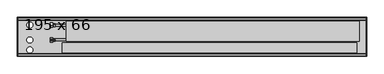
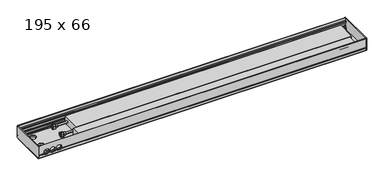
"""IFC4 building model written with IfcOpenShell, lengths in millimetres: proxy geometry, Mohlenhof_Внутрипольный конвектор_QSKM : 195 x 66."""

from ifc_helpers import new_model, si_unit, point, frame, frame_2d, origin, place, context, project, spatial, polyline, circle_curve, ellipse_curve, trimmed, segment, composite_curve, outline, extrude, source, transform, mapped, element, save
from ifc_brep_helpers import plane_surface, cylinder_surface, revolved_surface, advanced_brep


def proxy_195_x_66_bf0ae810(model_context):
    return source(origin(), model_context, "Body", "SolidModel", [
        extrude(outline(composite_curve([segment(trimmed(circle_curve(frame_2d((0.0, -273.5)), 4.5), [point((-4.5, -273.5))], [point((4.5, -273.5))], False, "CARTESIAN"), True, "CONTINUOUS"), segment(trimmed(circle_curve(frame_2d((0.0, -273.5)), 4.5), [point((4.5, -273.5))], [point((-4.5, -273.5))], False, "CARTESIAN"), True, "CONTINUOUS")], self_intersect=False)), frame((0.0, 0.0, -79.0), z_axis=(0.0, 0.0, 1.0), x_axis=(1.0, 0.0, 0.0)), (0.0, 0.0, 1.0), 7.0),
        extrude(outline(composite_curve([segment(trimmed(circle_curve(frame_2d((0.0, -273.5)), 4.0), [point((-4.0, -273.5))], [point((4.0, -273.5))], False, "CARTESIAN"), True, "CONTINUOUS"), segment(trimmed(circle_curve(frame_2d((0.0, -273.5)), 4.0), [point((4.0, -273.5))], [point((-4.0, -273.5))], False, "CARTESIAN"), True, "CONTINUOUS")], self_intersect=False)), frame((0.0, 0.0, -72.0), z_axis=(0.0, 0.0, 1.0), x_axis=(1.0, 0.0, 0.0)), (0.0, 0.0, 1.0), 1.5),
        extrude(outline(composite_curve([segment(trimmed(circle_curve(frame_2d((0.0, -121.5)), 4.5), [point((-4.5, -121.5))], [point((4.5, -121.5))], False, "CARTESIAN"), True, "CONTINUOUS"), segment(trimmed(circle_curve(frame_2d((0.0, -121.5)), 4.5), [point((4.5, -121.5))], [point((-4.5, -121.5))], False, "CARTESIAN"), True, "CONTINUOUS")], self_intersect=False)), frame((0.0, 0.0, -79.0), z_axis=(0.0, 0.0, 1.0), x_axis=(1.0, 0.0, 0.0)), (0.0, 0.0, 1.0), 7.0),
        extrude(outline(composite_curve([segment(trimmed(circle_curve(frame_2d((0.0, -121.5)), 4.0), [point((-4.0, -121.5))], [point((4.0, -121.5))], False, "CARTESIAN"), True, "CONTINUOUS"), segment(trimmed(circle_curve(frame_2d((0.0, -121.5)), 4.0), [point((4.0, -121.5))], [point((-4.0, -121.5))], False, "CARTESIAN"), True, "CONTINUOUS")], self_intersect=False)), frame((0.0, 0.0, -72.0), z_axis=(0.0, 0.0, 1.0), x_axis=(1.0, 0.0, 0.0)), (0.0, 0.0, 1.0), 1.5),
        advanced_brep(
        [(-699.0, -213.0, -41.0), (-699.0, -201.0, -41.0), (-699.0, -225.0, -41.0), (-686.5, -220.5, -41.0), (-686.5, -205.5, -41.0), (-686.5, -213.0, -41.0), (-694.0, -220.5, -41.0), (-694.0, -205.5, -41.0)],
        [
            (0, 1),
            (1, 2, circle_curve(frame((-699.0, -213.0, -41.0), z_axis=(-1.0, 0.0, 0.0), x_axis=(0.0, 1.0, 0.0)), 12.0)),
            (2, 0),
            (2, 1, circle_curve(frame((-699.0, -213.0, -41.0), z_axis=(-1.0, 0.0, 0.0), x_axis=(0.0, 1.0, 0.0)), 12.0)),
            (3, 4, circle_curve(frame((-686.5, -213.0, -41.0), z_axis=(1.0, 0.0, 0.0), x_axis=(0.0, 1.0, 0.0)), 7.5)),
            (4, 5),
            (5, 3),
            (4, 3, circle_curve(frame((-686.5, -213.0, -41.0), z_axis=(1.0, 0.0, 0.0), x_axis=(0.0, 1.0, 0.0)), 7.5)),
            (6, 7, circle_curve(frame((-694.0, -213.0, -41.0), z_axis=(1.0, 0.0, 0.0), x_axis=(0.0, 1.0, 0.0)), 7.5)),
            (7, 4),
            (3, 6),
            (7, 6, circle_curve(frame((-694.0, -213.0, -41.0), z_axis=(1.0, 0.0, 0.0), x_axis=(0.0, 1.0, 0.0)), 7.5)),
            (1, 7),
            (6, 2),
        ],
        [
            plane_surface(frame((-699.0, -213.0, -41.0), z_axis=(-1.0, 0.0, 0.0), x_axis=(0.0, 1.0, 0.0))),
            plane_surface(frame((-686.5, -213.0, -41.0), z_axis=(1.0, 0.0, 0.0), x_axis=(0.0, 1.0, 0.0))),
            cylinder_surface(frame((-699.0, -213.0, -41.0), z_axis=(-1.0, 0.0, 0.0), x_axis=(0.0, 1.0, 0.0)), 7.5),
            revolved_surface(polyline([(-694.0, -205.5, -41.0), (-699.0, -201.0, -41.0)]), (-699.0, -213.0, -41.0), (-1.0, 0.0, 0.0)),
        ],
        [
            (0, [[1, 2, 3]]),
            (0, [[-3, 4, -1]]),
            (1, [[5, 6, 7]]),
            (1, [[8, -7, -6]]),
            (2, [[9, 10, -5, 11]]),
            (2, [[12, -11, -8, -10]]),
            (3, [[-2, 13, -9, 14]]),
            (3, [[-4, -14, -12, -13]]),
        ],
    ),
        extrude(outline(polyline([(-213.0, -27.1435935), (-201.0, -34.0717968), (-201.0, -47.9282032), (-213.0, -54.8564065), (-225.0, -47.9282032), (-225.0, -34.0717968), (-213.0, -27.1435935)]), holes=[composite_curve([segment(trimmed(circle_curve(frame_2d((-213.0, -41.0)), 8.5), [point((-204.5, -41.0))], [point((-221.5, -41.0))], True, "CARTESIAN"), True, "CONTINUOUS"), segment(trimmed(circle_curve(frame_2d((-213.0, -41.0)), 8.5), [point((-221.5, -41.0))], [point((-204.5, -41.0))], True, "CARTESIAN"), True, "CONTINUOUS")], self_intersect=False)]), frame((-710.0, 0.0, 0.0), z_axis=(1.0, 0.0, 0.0), x_axis=(0.0, 1.0, 0.0)), (0.0, 0.0, 1.0), 11.0),
        advanced_brep(
        [(-699.0, -138.0, -41.0), (-699.0, -126.0, -41.0), (-699.0, -150.0, -41.0), (-686.5, -145.5, -41.0), (-686.5, -130.5, -41.0), (-686.5, -138.0, -41.0), (-694.0, -145.5, -41.0), (-694.0, -130.5, -41.0)],
        [
            (0, 1),
            (1, 2, circle_curve(frame((-699.0, -138.0, -41.0), z_axis=(-1.0, 0.0, 0.0), x_axis=(0.0, 1.0, 0.0)), 12.0)),
            (2, 0),
            (2, 1, circle_curve(frame((-699.0, -138.0, -41.0), z_axis=(-1.0, 0.0, 0.0), x_axis=(0.0, 1.0, 0.0)), 12.0)),
            (3, 4, circle_curve(frame((-686.5, -138.0, -41.0), z_axis=(1.0, 0.0, 0.0), x_axis=(0.0, 1.0, 0.0)), 7.5)),
            (4, 5),
            (5, 3),
            (4, 3, circle_curve(frame((-686.5, -138.0, -41.0), z_axis=(1.0, 0.0, 0.0), x_axis=(0.0, 1.0, 0.0)), 7.5)),
            (6, 7, circle_curve(frame((-694.0, -138.0, -41.0), z_axis=(1.0, 0.0, 0.0), x_axis=(0.0, 1.0, 0.0)), 7.5)),
            (7, 4),
            (3, 6),
            (7, 6, circle_curve(frame((-694.0, -138.0, -41.0), z_axis=(1.0, 0.0, 0.0), x_axis=(0.0, 1.0, 0.0)), 7.5)),
            (1, 7),
            (6, 2),
        ],
        [
            plane_surface(frame((-699.0, -138.0, -41.0), z_axis=(-1.0, 0.0, 0.0), x_axis=(0.0, 1.0, 0.0))),
            plane_surface(frame((-686.5, -138.0, -41.0), z_axis=(1.0, 0.0, 0.0), x_axis=(0.0, 1.0, 0.0))),
            cylinder_surface(frame((-699.0, -138.0, -41.0), z_axis=(-1.0, 0.0, 0.0), x_axis=(0.0, 1.0, 0.0)), 7.5),
            revolved_surface(polyline([(-694.0, -130.5, -41.0), (-699.0, -126.0, -41.0)]), (-699.0, -138.0, -41.0), (-1.0, 0.0, 0.0)),
        ],
        [
            (0, [[1, 2, 3]]),
            (0, [[-3, 4, -1]]),
            (1, [[5, 6, 7]]),
            (1, [[8, -7, -6]]),
            (2, [[9, 10, -5, 11]]),
            (2, [[12, -11, -8, -10]]),
            (3, [[-2, 13, -9, 14]]),
            (3, [[-4, -14, -12, -13]]),
        ],
    ),
        extrude(outline(polyline([(-138.0, -27.1435935), (-126.0, -34.0717968), (-126.0, -47.9282032), (-138.0, -54.8564065), (-150.0, -47.9282032), (-150.0, -34.0717968), (-138.0, -27.1435935)]), holes=[composite_curve([segment(trimmed(circle_curve(frame_2d((-138.0, -41.0)), 8.5), [point((-129.5, -41.0))], [point((-146.5, -41.0))], True, "CARTESIAN"), True, "CONTINUOUS"), segment(trimmed(circle_curve(frame_2d((-138.0, -41.0)), 8.5), [point((-146.5, -41.0))], [point((-129.5, -41.0))], True, "CARTESIAN"), True, "CONTINUOUS")], self_intersect=False)]), frame((-710.0, 0.0, 0.0), z_axis=(1.0, 0.0, 0.0), x_axis=(0.0, 1.0, 0.0)), (0.0, 0.0, 1.0), 11.0),
        extrude(outline(composite_curve([segment(trimmed(circle_curve(frame_2d((-850.0, -273.5)), 4.5), [point((-854.5, -273.5))], [point((-845.5, -273.5))], False, "CARTESIAN"), True, "CONTINUOUS"), segment(trimmed(circle_curve(frame_2d((-850.0, -273.5)), 4.5), [point((-845.5, -273.5))], [point((-854.5, -273.5))], False, "CARTESIAN"), True, "CONTINUOUS")], self_intersect=False)), frame((0.0, 0.0, -79.0), z_axis=(0.0, 0.0, 1.0), x_axis=(1.0, 0.0, 0.0)), (0.0, 0.0, 1.0), 7.0),
        extrude(outline(composite_curve([segment(trimmed(circle_curve(frame_2d((-850.0, -273.5)), 4.0), [point((-854.0, -273.5))], [point((-846.0, -273.5))], False, "CARTESIAN"), True, "CONTINUOUS"), segment(trimmed(circle_curve(frame_2d((-850.0, -273.5)), 4.0), [point((-846.0, -273.5))], [point((-854.0, -273.5))], False, "CARTESIAN"), True, "CONTINUOUS")], self_intersect=False)), frame((0.0, 0.0, -72.0), z_axis=(0.0, 0.0, 1.0), x_axis=(1.0, 0.0, 0.0)), (0.0, 0.0, 1.0), 1.5),
        extrude(outline(composite_curve([segment(trimmed(circle_curve(frame_2d((-850.0, -121.5)), 4.5), [point((-854.5, -121.5))], [point((-845.5, -121.5))], False, "CARTESIAN"), True, "CONTINUOUS"), segment(trimmed(circle_curve(frame_2d((-850.0, -121.5)), 4.5), [point((-845.5, -121.5))], [point((-854.5, -121.5))], False, "CARTESIAN"), True, "CONTINUOUS")], self_intersect=False)), frame((0.0, 0.0, -79.0), z_axis=(0.0, 0.0, 1.0), x_axis=(1.0, 0.0, 0.0)), (0.0, 0.0, 1.0), 7.0),
        extrude(outline(composite_curve([segment(trimmed(circle_curve(frame_2d((-850.0, -121.5)), 4.0), [point((-854.0, -121.5))], [point((-846.0, -121.5))], False, "CARTESIAN"), True, "CONTINUOUS"), segment(trimmed(circle_curve(frame_2d((-850.0, -121.5)), 4.0), [point((-846.0, -121.5))], [point((-854.0, -121.5))], False, "CARTESIAN"), True, "CONTINUOUS")], self_intersect=False)), frame((0.0, 0.0, -72.0), z_axis=(0.0, 0.0, 1.0), x_axis=(1.0, 0.0, 0.0)), (0.0, 0.0, 1.0), 1.5),
        extrude(outline(composite_curve([segment(trimmed(circle_curve(frame_2d((850.0, -273.5)), 4.5), [point((845.5, -273.5))], [point((854.5, -273.5))], False, "CARTESIAN"), True, "CONTINUOUS"), segment(trimmed(circle_curve(frame_2d((850.0, -273.5)), 4.5), [point((854.5, -273.5))], [point((845.5, -273.5))], False, "CARTESIAN"), True, "CONTINUOUS")], self_intersect=False)), frame((0.0, 0.0, -79.0), z_axis=(0.0, 0.0, 1.0), x_axis=(1.0, 0.0, 0.0)), (0.0, 0.0, 1.0), 7.0),
        extrude(outline(composite_curve([segment(trimmed(circle_curve(frame_2d((850.0, -273.5)), 4.0), [point((846.0, -273.5))], [point((854.0, -273.5))], False, "CARTESIAN"), True, "CONTINUOUS"), segment(trimmed(circle_curve(frame_2d((850.0, -273.5)), 4.0), [point((854.0, -273.5))], [point((846.0, -273.5))], False, "CARTESIAN"), True, "CONTINUOUS")], self_intersect=False)), frame((0.0, 0.0, -72.0), z_axis=(0.0, 0.0, 1.0), x_axis=(1.0, 0.0, 0.0)), (0.0, 0.0, 1.0), 1.5),
        extrude(outline(composite_curve([segment(trimmed(circle_curve(frame_2d((850.0, -121.5)), 4.5), [point((845.5, -121.5))], [point((854.5, -121.5))], False, "CARTESIAN"), True, "CONTINUOUS"), segment(trimmed(circle_curve(frame_2d((850.0, -121.5)), 4.5), [point((854.5, -121.5))], [point((845.5, -121.5))], False, "CARTESIAN"), True, "CONTINUOUS")], self_intersect=False)), frame((0.0, 0.0, -79.0), z_axis=(0.0, 0.0, 1.0), x_axis=(1.0, 0.0, 0.0)), (0.0, 0.0, 1.0), 7.0),
        extrude(outline(composite_curve([segment(trimmed(circle_curve(frame_2d((850.0, -121.5)), 4.0), [point((846.0, -121.5))], [point((854.0, -121.5))], False, "CARTESIAN"), True, "CONTINUOUS"), segment(trimmed(circle_curve(frame_2d((850.0, -121.5)), 4.0), [point((854.0, -121.5))], [point((846.0, -121.5))], False, "CARTESIAN"), True, "CONTINUOUS")], self_intersect=False)), frame((0.0, 0.0, -72.0), z_axis=(0.0, 0.0, 1.0), x_axis=(1.0, 0.0, 0.0)), (0.0, 0.0, 1.0), 1.5),
        extrude(outline(polyline([(825.0, -225.87), (825.0, -277.18), (-650.0, -277.18), (-650.0, -225.87), (825.0, -225.87)])), frame((0.0, 0.0, -62.5), z_axis=(0.0, 0.0, 1.0), x_axis=(1.0, 0.0, 0.0)), (0.0, 0.0, 1.0), 43.62),
        extrude(outline(composite_curve([segment(trimmed(circle_curve(frame_2d((-213.0, -41.0)), 5.0), [point((-218.0, -41.0))], [point((-208.0, -41.0))], False, "CARTESIAN"), True, "CONTINUOUS"), segment(trimmed(circle_curve(frame_2d((-213.0, -41.0)), 5.0), [point((-208.0, -41.0))], [point((-218.0, -41.0))], False, "CARTESIAN"), True, "CONTINUOUS")], self_intersect=False)), frame((-710.0, 0.0, 0.0), z_axis=(1.0, 0.0, 0.0), x_axis=(0.0, 1.0, 0.0)), (0.0, 0.0, 1.0), 80.0),
        extrude(outline(composite_curve([segment(trimmed(circle_curve(frame_2d((-138.0, -41.0)), 5.0), [point((-143.0, -41.0))], [point((-133.0, -41.0))], False, "CARTESIAN"), True, "CONTINUOUS"), segment(trimmed(circle_curve(frame_2d((-138.0, -41.0)), 5.0), [point((-133.0, -41.0))], [point((-143.0, -41.0))], False, "CARTESIAN"), True, "CONTINUOUS")], self_intersect=False)), frame((-710.0, 0.0, 0.0), z_axis=(1.0, 0.0, 0.0), x_axis=(0.0, 1.0, 0.0)), (0.0, 0.0, 1.0), 80.0),
        advanced_brep(
        [(873.0, -295.0, -48.5473602), (873.0, -293.5, -49.2468216), (873.0, -292.5, -49.2468216), (873.0, -292.5, -46.0008038), (873.0, -290.0, -46.0008038), (873.0, -290.0, -56.5008038), (873.0, -292.5, -56.5008038), (873.0, -292.5, -53.2468216), (873.0, -293.5, -53.2468216), (873.0, -295.0, -53.9462831), (873.0, -295.0, -66.5), (873.0, -291.0, -66.5), (873.0, -291.0, -65.2), (873.0, -293.0, -65.2), (873.0, -293.0, -62.5), (873.0, -282.0, -62.5), (873.0, -282.0, -54.9172677), (873.0, -283.4172677, -53.5), (873.0, -287.0, -53.5), (873.0, -287.0, -45.91), (873.0, -289.0, -43.91), (873.0, -289.0, -39.5), (873.0, -290.0, -39.5), (873.0, -290.0, -43.5), (873.0, -292.4956439, -43.5), (873.0, -292.4956439, -23.0), (873.0, -290.0, -23.0), (873.0, -290.0, -27.0), (873.0, -289.0, -27.0), (873.0, -289.0, -17.0), (873.0, -283.3956439, -17.0), (873.0, -283.3956439, -15.0), (873.0, -293.4, -15.0), (873.0, -293.4, 0.0), (873.0, -295.0, 0.0), (-873.0, -295.0, -48.5473602), (-873.0, -295.0, 0.0), (-873.0, -293.4, 0.0), (-873.0, -293.4, -15.0), (-873.0, -283.3956439, -15.0), (-873.0, -283.3956439, -17.0), (-873.0, -289.0, -17.0), (-873.0, -289.0, -27.0), (-873.0, -290.0, -27.0), (-873.0, -290.0, -23.0), (-873.0, -292.4956439, -23.0), (-873.0, -292.4956439, -43.5), (-873.0, -290.0, -43.5), (-873.0, -290.0, -39.5), (-873.0, -289.0, -39.5), (-873.0, -289.0, -43.91), (-873.0, -287.0, -45.91), (-873.0, -287.0, -53.5), (-873.0, -283.4172677, -53.5), (-873.0, -282.0, -54.9172677), (-873.0, -282.0, -62.5), (-873.0, -293.0, -62.5), (-873.0, -293.0, -65.2), (-873.0, -291.0, -65.2), (-873.0, -291.0, -66.5), (-873.0, -295.0, -66.5), (-873.0, -295.0, -53.9462831), (-873.0, -293.5, -53.2468216), (-873.0, -292.5, -53.2468216), (-873.0, -292.5, -56.5008038), (-873.0, -290.0, -56.5008038), (-873.0, -290.0, -46.0008038), (-873.0, -292.5, -46.0008038), (-873.0, -292.5, -49.2468216), (-873.0, -293.5, -49.2468216), (-753.7585985, -295.0, -48.5473602), (-754.155283, -293.5, -49.2468216), (-845.844717, -293.5, -49.2468216), (-846.2414015, -295.0, -48.5473602), (-813.2414015, -295.0, -48.5473602), (-819.7585985, -295.0, -48.5473602), (-820.155283, -293.5, -49.2468216), (-812.844717, -293.5, -49.2468216), (-780.2414015, -295.0, -48.5473602), (-786.7585985, -295.0, -48.5473602), (-787.155283, -293.5, -49.2468216), (-779.844717, -293.5, -49.2468216), (-754.155283, -292.5, -49.2468216), (-845.844717, -292.5, -49.2468216), (-820.155283, -292.5, -49.2468216), (-812.844717, -292.5, -49.2468216), (-787.155283, -292.5, -49.2468216), (-779.844717, -292.5, -49.2468216), (-752.6911648, -292.5, -46.0008038), (-847.3088352, -292.5, -46.0008038), (-818.6911648, -292.5, -46.0008038), (-814.3088352, -292.5, -46.0008038), (-785.6911648, -292.5, -46.0008038), (-781.3088352, -292.5, -46.0008038), (-752.6911648, -290.0, -46.0008038), (-847.3088352, -290.0, -46.0008038), (-818.6911648, -290.0, -46.0008038), (-814.3088352, -290.0, -46.0008038), (-785.6911648, -290.0, -46.0008038), (-781.3088352, -290.0, -46.0008038), (-842.328032, -292.5, -53.2468216), (-823.671968, -292.5, -53.2468216), (-809.328032, -292.5, -53.2468216), (-790.671968, -292.5, -53.2468216), (-776.328032, -292.5, -53.2468216), (-757.671968, -292.5, -53.2468216), (-757.671968, -293.5, -53.2468216), (-842.328032, -293.5, -53.2468216), (-823.671968, -293.5, -53.2468216), (-809.328032, -293.5, -53.2468216), (-790.671968, -293.5, -53.2468216), (-776.328032, -293.5, -53.2468216), (-758.6280208, -295.0, -53.9462831), (-841.3719792, -295.0, -53.9462831), (-824.6280208, -295.0, -53.9462831), (-808.3719792, -295.0, -53.9462831), (-791.6280208, -295.0, -53.9462831), (-775.3719792, -295.0, -53.9462831), (-839.7064841, -282.0, -54.9172677), (-826.2935159, -282.0, -54.9172677), (-806.7064841, -282.0, -54.9172677), (-793.2935159, -282.0, -54.9172677), (-773.7064841, -282.0, -54.9172677), (-760.2935159, -282.0, -54.9172677), (-758.0, -283.4172677, -53.5), (-842.0, -283.4172677, -53.5), (-824.0, -283.4172677, -53.5), (-809.0, -283.4172677, -53.5), (-791.0, -283.4172677, -53.5), (-776.0, -283.4172677, -53.5), (-758.0, -287.0, -53.5), (-842.0, -287.0, -53.5), (-824.0, -287.0, -53.5), (-809.0, -287.0, -53.5), (-791.0, -287.0, -53.5), (-776.0, -287.0, -53.5), (-752.6629187, -287.0, -45.91), (-847.3370813, -287.0, -45.91), (-818.6629187, -287.0, -45.91), (-814.3370813, -287.0, -45.91), (-785.6629187, -287.0, -45.91), (-781.3370813, -287.0, -45.91), (-752.1948691, -289.0, -43.91), (-847.8051309, -289.0, -43.91), (-818.1948691, -289.0, -43.91), (-814.8051309, -289.0, -43.91), (-785.1948691, -289.0, -43.91), (-781.8051309, -289.0, -43.91), (-752.0, -289.0, -41.5), (-752.1339313, -289.0, -39.5), (-847.8660687, -289.0, -39.5), (-848.0, -289.0, -41.5), (-818.0, -289.0, -41.5), (-818.1339313, -289.0, -39.5), (-814.8660687, -289.0, -39.5), (-815.0, -289.0, -41.5), (-785.0, -289.0, -41.5), (-785.1339313, -289.0, -39.5), (-781.8660687, -289.0, -39.5), (-782.0, -289.0, -41.5), (-752.1339313, -290.0, -39.5), (-847.8660687, -290.0, -39.5), (-818.1339313, -290.0, -39.5), (-814.8660687, -290.0, -39.5), (-785.1339313, -290.0, -39.5), (-781.8660687, -290.0, -39.5), (-752.0, -290.0, -41.5), (-752.1339313, -290.0, -43.5), (-847.8660687, -290.0, -43.5), (-848.0, -290.0, -41.5), (-818.0, -290.0, -41.5), (-818.1339313, -290.0, -43.5), (-814.8660687, -290.0, -43.5), (-815.0, -290.0, -41.5), (-785.0, -290.0, -41.5), (-785.1339313, -290.0, -43.5), (-781.8660687, -290.0, -43.5), (-782.0, -290.0, -41.5), (-752.1339313, -292.4956439, -43.5), (-847.8660687, -292.4956439, -43.5), (-818.1339313, -292.4956439, -43.5), (-814.8660687, -292.4956439, -43.5), (-785.1339313, -292.4956439, -43.5), (-781.8660687, -292.4956439, -43.5), (-752.0, -292.4956439, -41.5), (-782.0, -292.4956439, -41.5), (-785.0, -292.4956439, -41.5), (-815.0, -292.4956439, -41.5), (-818.0, -292.4956439, -41.5), (-848.0, -292.4956439, -41.5), (-836.8405729, -290.0, -27.0), (-829.1594271, -290.0, -27.0), (-803.8405729, -290.0, -27.0), (-796.1594271, -290.0, -27.0), (-770.8405729, -290.0, -27.0), (-763.1594271, -290.0, -27.0), (-763.1594271, -289.0, -27.0), (-836.8405729, -289.0, -27.0), (-829.1594271, -289.0, -27.0), (-803.8405729, -289.0, -27.0), (-796.1594271, -289.0, -27.0), (-770.8405729, -289.0, -27.0), (-848.0, -295.0, -41.5), (-818.0, -295.0, -41.5), (-815.0, -295.0, -41.5), (-785.0, -295.0, -41.5), (-782.0, -295.0, -41.5), (-752.0, -295.0, -41.5)],
        [
            (0, 1),
            (1, 2),
            (2, 3),
            (3, 4),
            (4, 5),
            (5, 6),
            (6, 7),
            (7, 8),
            (8, 9),
            (9, 10),
            (10, 11),
            (11, 12),
            (12, 13),
            (13, 14),
            (14, 15),
            (15, 16),
            (16, 17),
            (17, 18),
            (18, 19),
            (19, 20),
            (20, 21),
            (21, 22),
            (22, 23),
            (23, 24),
            (24, 25),
            (25, 26),
            (26, 27),
            (27, 28),
            (28, 29),
            (29, 30),
            (30, 31),
            (31, 32),
            (32, 33),
            (33, 34),
            (34, 0),
            (35, 36),
            (36, 37),
            (37, 38),
            (38, 39),
            (39, 40),
            (40, 41),
            (41, 42),
            (42, 43),
            (43, 44),
            (44, 45),
            (45, 46),
            (46, 47),
            (47, 48),
            (48, 49),
            (49, 50),
            (50, 51),
            (51, 52),
            (52, 53),
            (53, 54),
            (54, 55),
            (55, 56),
            (56, 57),
            (57, 58),
            (58, 59),
            (59, 60),
            (60, 61),
            (61, 62),
            (62, 63),
            (63, 64),
            (64, 65),
            (65, 66),
            (66, 67),
            (67, 68),
            (68, 69),
            (69, 35),
            (0, 70),
            (70, 71, ellipse_curve(frame((-767.0, -310.1131126, -41.5), z_axis=(0.0, 0.42261826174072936, 0.9063077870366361), x_axis=(0.0, -0.906307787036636, 0.4226182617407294)), 35.4930237, 15.0)),
            (71, 1),
            (69, 72),
            (72, 73, ellipse_curve(frame((-833.0, -310.1131126, -41.5), z_axis=(0.0, 0.42261826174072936, 0.9063077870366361), x_axis=(0.0, -0.906307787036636, 0.4226182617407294)), 35.4930237, 15.0)),
            (73, 35),
            (74, 75),
            (75, 76, ellipse_curve(frame((-833.0, -310.1131126, -41.5), z_axis=(0.0, 0.42261826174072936, 0.9063077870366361), x_axis=(0.0, -0.906307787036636, 0.4226182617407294)), 35.4930237, 15.0)),
            (76, 77),
            (77, 74, ellipse_curve(frame((-800.0, -310.1131126, -41.5), z_axis=(0.0, 0.42261826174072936, 0.9063077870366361), x_axis=(0.0, -0.906307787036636, 0.4226182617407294)), 35.4930237, 15.0)),
            (78, 79),
            (79, 80, ellipse_curve(frame((-800.0, -310.1131126, -41.5), z_axis=(0.0, 0.42261826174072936, 0.9063077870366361), x_axis=(0.0, -0.906307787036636, 0.4226182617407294)), 35.4930237, 15.0)),
            (80, 81),
            (81, 78, ellipse_curve(frame((-767.0, -310.1131126, -41.5), z_axis=(0.0, 0.42261826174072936, 0.9063077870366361), x_axis=(0.0, -0.906307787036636, 0.4226182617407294)), 35.4930237, 15.0)),
            (71, 82),
            (82, 2),
            (68, 83),
            (83, 72),
            (76, 84),
            (84, 85),
            (85, 77),
            (80, 86),
            (86, 87),
            (87, 81),
            (82, 88, circle_curve(frame((-767.0, -292.5, -41.5), z_axis=(0.0, -1.0, 0.0), x_axis=(1.0, 0.0, 0.0)), 15.0)),
            (88, 3),
            (67, 89),
            (89, 83, circle_curve(frame((-833.0, -292.5, -41.5), z_axis=(0.0, -1.0, 0.0), x_axis=(1.0, 0.0, 0.0)), 15.0)),
            (84, 90, circle_curve(frame((-833.0, -292.5, -41.5), z_axis=(0.0, -1.0, 0.0), x_axis=(1.0, 0.0, 0.0)), 15.0)),
            (90, 91),
            (91, 85, circle_curve(frame((-800.0, -292.5, -41.5), z_axis=(0.0, -1.0, 0.0), x_axis=(1.0, 0.0, 0.0)), 15.0)),
            (86, 92, circle_curve(frame((-800.0, -292.5, -41.5), z_axis=(0.0, -1.0, 0.0), x_axis=(1.0, 0.0, 0.0)), 15.0)),
            (92, 93),
            (93, 87, circle_curve(frame((-767.0, -292.5, -41.5), z_axis=(0.0, -1.0, 0.0), x_axis=(1.0, 0.0, 0.0)), 15.0)),
            (88, 94),
            (94, 4),
            (66, 95),
            (95, 89),
            (90, 96),
            (96, 97),
            (97, 91),
            (92, 98),
            (98, 99),
            (99, 93),
            (94, 99, circle_curve(frame((-767.0, -290.0, -41.5), z_axis=(0.0, 1.0, 0.0), x_axis=(1.0, 0.0, 0.0)), 15.0)),
            (98, 97, circle_curve(frame((-800.0, -290.0, -41.5), z_axis=(0.0, 1.0, 0.0), x_axis=(1.0, 0.0, 0.0)), 15.0)),
            (96, 95, circle_curve(frame((-833.0, -290.0, -41.5), z_axis=(0.0, 1.0, 0.0), x_axis=(1.0, 0.0, 0.0)), 15.0)),
            (65, 5),
            (64, 6),
            (63, 100),
            (100, 101, circle_curve(frame((-833.0, -292.5, -41.5), z_axis=(0.0, -1.0, 0.0), x_axis=(1.0, 0.0, 0.0)), 15.0)),
            (101, 102),
            (102, 103, circle_curve(frame((-800.0, -292.5, -41.5), z_axis=(0.0, -1.0, 0.0), x_axis=(1.0, 0.0, 0.0)), 15.0)),
            (103, 104),
            (104, 105, circle_curve(frame((-767.0, -292.5, -41.5), z_axis=(0.0, -1.0, 0.0), x_axis=(1.0, 0.0, 0.0)), 15.0)),
            (105, 7),
            (105, 106),
            (106, 8),
            (62, 107),
            (107, 100),
            (101, 108),
            (108, 109),
            (109, 102),
            (103, 110),
            (110, 111),
            (111, 104),
            (106, 112, ellipse_curve(frame((-767.0, -268.3088597, -41.5), z_axis=(0.0, 0.4226182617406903, -0.9063077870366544), x_axis=(0.0, -0.9063077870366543, -0.42261826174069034)), 35.4930237, 15.0)),
            (112, 9),
            (61, 113),
            (113, 107, ellipse_curve(frame((-833.0, -268.3088597, -41.5), z_axis=(0.0, 0.4226182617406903, -0.9063077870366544), x_axis=(0.0, -0.9063077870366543, -0.42261826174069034)), 35.4930237, 15.0)),
            (108, 114, ellipse_curve(frame((-833.0, -268.3088597, -41.5), z_axis=(0.0, 0.4226182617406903, -0.9063077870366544), x_axis=(0.0, -0.9063077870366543, -0.42261826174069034)), 35.4930237, 15.0)),
            (114, 115),
            (115, 109, ellipse_curve(frame((-800.0, -268.3088597, -41.5), z_axis=(0.0, 0.4226182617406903, -0.9063077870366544), x_axis=(0.0, -0.9063077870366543, -0.42261826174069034)), 35.4930237, 15.0)),
            (110, 116, ellipse_curve(frame((-800.0, -268.3088597, -41.5), z_axis=(0.0, 0.4226182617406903, -0.9063077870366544), x_axis=(0.0, -0.9063077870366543, -0.42261826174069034)), 35.4930237, 15.0)),
            (116, 117),
            (117, 111, ellipse_curve(frame((-767.0, -268.3088597, -41.5), z_axis=(0.0, 0.4226182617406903, -0.9063077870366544), x_axis=(0.0, -0.9063077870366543, -0.42261826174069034)), 35.4930237, 15.0)),
            (112, 117, circle_curve(frame((-767.0, -295.0, -41.5), z_axis=(0.0, 1.0, 0.0), x_axis=(1.0, 0.0, 0.0)), 15.0)),
            (116, 115, circle_curve(frame((-800.0, -295.0, -41.5), z_axis=(0.0, 1.0, 0.0), x_axis=(1.0, 0.0, 0.0)), 15.0)),
            (114, 113, circle_curve(frame((-833.0, -295.0, -41.5), z_axis=(0.0, 1.0, 0.0), x_axis=(1.0, 0.0, 0.0)), 15.0)),
            (60, 10),
            (59, 11),
            (58, 12),
            (57, 13),
            (56, 14),
            (55, 15),
            (54, 118),
            (118, 119, circle_curve(frame((-833.0, -282.0, -41.5), z_axis=(0.0, -1.0, 0.0), x_axis=(1.0, 0.0, 0.0)), 15.0)),
            (119, 120),
            (120, 121, circle_curve(frame((-800.0, -282.0, -41.5), z_axis=(0.0, -1.0, 0.0), x_axis=(1.0, 0.0, 0.0)), 15.0)),
            (121, 122),
            (122, 123, circle_curve(frame((-767.0, -282.0, -41.5), z_axis=(0.0, -1.0, 0.0), x_axis=(1.0, 0.0, 0.0)), 15.0)),
            (123, 16),
            (123, 124, ellipse_curve(frame((-767.0, -295.4172677, -41.5), z_axis=(0.0, -0.7071067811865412, -0.7071067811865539), x_axis=(0.0, -0.7071067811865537, 0.7071067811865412)), 21.2132034, 15.0)),
            (124, 17),
            (53, 125),
            (125, 118, ellipse_curve(frame((-833.0, -295.4172677, -41.5), z_axis=(0.0, -0.7071067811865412, -0.7071067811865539), x_axis=(0.0, -0.7071067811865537, 0.7071067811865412)), 21.2132034, 15.0)),
            (119, 126, ellipse_curve(frame((-833.0, -295.4172677, -41.5), z_axis=(0.0, -0.7071067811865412, -0.7071067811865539), x_axis=(0.0, -0.7071067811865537, 0.7071067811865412)), 21.2132034, 15.0)),
            (126, 127),
            (127, 120, ellipse_curve(frame((-800.0, -295.4172677, -41.5), z_axis=(0.0, -0.7071067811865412, -0.7071067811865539), x_axis=(0.0, -0.7071067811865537, 0.7071067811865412)), 21.2132034, 15.0)),
            (121, 128, ellipse_curve(frame((-800.0, -295.4172677, -41.5), z_axis=(0.0, -0.7071067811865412, -0.7071067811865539), x_axis=(0.0, -0.7071067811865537, 0.7071067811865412)), 21.2132034, 15.0)),
            (128, 129),
            (129, 122, ellipse_curve(frame((-767.0, -295.4172677, -41.5), z_axis=(0.0, -0.7071067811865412, -0.7071067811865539), x_axis=(0.0, -0.7071067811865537, 0.7071067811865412)), 21.2132034, 15.0)),
            (124, 130),
            (130, 18),
            (52, 131),
            (131, 125),
            (126, 132),
            (132, 133),
            (133, 127),
            (128, 134),
            (134, 135),
            (135, 129),
            (130, 136, circle_curve(frame((-767.0, -287.0, -41.5), z_axis=(0.0, -1.0, 0.0), x_axis=(1.0, 0.0, 0.0)), 15.0)),
            (136, 19),
            (51, 137),
            (137, 131, circle_curve(frame((-833.0, -287.0, -41.5), z_axis=(0.0, -1.0, 0.0), x_axis=(1.0, 0.0, 0.0)), 15.0)),
            (132, 138, circle_curve(frame((-833.0, -287.0, -41.5), z_axis=(0.0, -1.0, 0.0), x_axis=(1.0, 0.0, 0.0)), 15.0)),
            (138, 139),
            (139, 133, circle_curve(frame((-800.0, -287.0, -41.5), z_axis=(0.0, -1.0, 0.0), x_axis=(1.0, 0.0, 0.0)), 15.0)),
            (134, 140, circle_curve(frame((-800.0, -287.0, -41.5), z_axis=(0.0, -1.0, 0.0), x_axis=(1.0, 0.0, 0.0)), 15.0)),
            (140, 141),
            (141, 135, circle_curve(frame((-767.0, -287.0, -41.5), z_axis=(0.0, -1.0, 0.0), x_axis=(1.0, 0.0, 0.0)), 15.0)),
            (136, 142, ellipse_curve(frame((-767.0, -291.41, -41.5), z_axis=(0.0, -0.7071067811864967, -0.7071067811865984), x_axis=(0.0, -0.7071067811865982, 0.7071067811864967)), 21.2132034, 15.0)),
            (142, 20),
            (50, 143),
            (143, 137, ellipse_curve(frame((-833.0, -291.41, -41.5), z_axis=(0.0, -0.7071067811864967, -0.7071067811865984), x_axis=(0.0, -0.7071067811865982, 0.7071067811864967)), 21.2132034, 15.0)),
            (138, 144, ellipse_curve(frame((-833.0, -291.41, -41.5), z_axis=(0.0, -0.7071067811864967, -0.7071067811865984), x_axis=(0.0, -0.7071067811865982, 0.7071067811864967)), 21.2132034, 15.0)),
            (144, 145),
            (145, 139, ellipse_curve(frame((-800.0, -291.41, -41.5), z_axis=(0.0, -0.7071067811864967, -0.7071067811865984), x_axis=(0.0, -0.7071067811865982, 0.7071067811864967)), 21.2132034, 15.0)),
            (140, 146, ellipse_curve(frame((-800.0, -291.41, -41.5), z_axis=(0.0, -0.7071067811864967, -0.7071067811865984), x_axis=(0.0, -0.7071067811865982, 0.7071067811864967)), 21.2132034, 15.0)),
            (146, 147),
            (147, 141, ellipse_curve(frame((-767.0, -291.41, -41.5), z_axis=(0.0, -0.7071067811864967, -0.7071067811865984), x_axis=(0.0, -0.7071067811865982, 0.7071067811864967)), 21.2132034, 15.0)),
            (142, 148, circle_curve(frame((-767.0, -289.0, -41.5), z_axis=(0.0, -1.0, 0.0), x_axis=(1.0, 0.0, 0.0)), 15.0)),
            (148, 149, circle_curve(frame((-767.0, -289.0, -41.5), z_axis=(0.0, -1.0, 0.0), x_axis=(1.0, 0.0, 0.0)), 15.0)),
            (149, 21),
            (49, 150),
            (150, 151, circle_curve(frame((-833.0, -289.0, -41.5), z_axis=(0.0, -1.0, 0.0), x_axis=(1.0, 0.0, 0.0)), 15.0)),
            (151, 143, circle_curve(frame((-833.0, -289.0, -41.5), z_axis=(0.0, -1.0, 0.0), x_axis=(1.0, 0.0, 0.0)), 15.0)),
            (144, 152, circle_curve(frame((-833.0, -289.0, -41.5), z_axis=(0.0, -1.0, 0.0), x_axis=(1.0, 0.0, 0.0)), 15.0)),
            (152, 153, circle_curve(frame((-833.0, -289.0, -41.5), z_axis=(0.0, -1.0, 0.0), x_axis=(1.0, 0.0, 0.0)), 15.0)),
            (153, 154),
            (154, 155, circle_curve(frame((-800.0, -289.0, -41.5), z_axis=(0.0, -1.0, 0.0), x_axis=(1.0, 0.0, 0.0)), 15.0)),
            (155, 145, circle_curve(frame((-800.0, -289.0, -41.5), z_axis=(0.0, -1.0, 0.0), x_axis=(1.0, 0.0, 0.0)), 15.0)),
            (146, 156, circle_curve(frame((-800.0, -289.0, -41.5), z_axis=(0.0, -1.0, 0.0), x_axis=(1.0, 0.0, 0.0)), 15.0)),
            (156, 157, circle_curve(frame((-800.0, -289.0, -41.5), z_axis=(0.0, -1.0, 0.0), x_axis=(1.0, 0.0, 0.0)), 15.0)),
            (157, 158),
            (158, 159, circle_curve(frame((-767.0, -289.0, -41.5), z_axis=(0.0, -1.0, 0.0), x_axis=(1.0, 0.0, 0.0)), 15.0)),
            (159, 147, circle_curve(frame((-767.0, -289.0, -41.5), z_axis=(0.0, -1.0, 0.0), x_axis=(1.0, 0.0, 0.0)), 15.0)),
            (149, 160),
            (160, 22),
            (48, 161),
            (161, 150),
            (153, 162),
            (162, 163),
            (163, 154),
            (157, 164),
            (164, 165),
            (165, 158),
            (160, 166, circle_curve(frame((-767.0, -290.0, -41.5), z_axis=(0.0, 1.0, 0.0), x_axis=(1.0, 0.0, 0.0)), 15.0)),
            (166, 167, circle_curve(frame((-767.0, -290.0, -41.5), z_axis=(0.0, 1.0, 0.0), x_axis=(1.0, 0.0, 0.0)), 15.0)),
            (167, 23),
            (47, 168),
            (168, 169, circle_curve(frame((-833.0, -290.0, -41.5), z_axis=(0.0, 1.0, 0.0), x_axis=(1.0, 0.0, 0.0)), 15.0)),
            (169, 161, circle_curve(frame((-833.0, -290.0, -41.5), z_axis=(0.0, 1.0, 0.0), x_axis=(1.0, 0.0, 0.0)), 15.0)),
            (162, 170, circle_curve(frame((-833.0, -290.0, -41.5), z_axis=(0.0, 1.0, 0.0), x_axis=(1.0, 0.0, 0.0)), 15.0)),
            (170, 171, circle_curve(frame((-833.0, -290.0, -41.5), z_axis=(0.0, 1.0, 0.0), x_axis=(1.0, 0.0, 0.0)), 15.0)),
            (171, 172),
            (172, 173, circle_curve(frame((-800.0, -290.0, -41.5), z_axis=(0.0, 1.0, 0.0), x_axis=(1.0, 0.0, 0.0)), 15.0)),
            (173, 163, circle_curve(frame((-800.0, -290.0, -41.5), z_axis=(0.0, 1.0, 0.0), x_axis=(1.0, 0.0, 0.0)), 15.0)),
            (164, 174, circle_curve(frame((-800.0, -290.0, -41.5), z_axis=(0.0, 1.0, 0.0), x_axis=(1.0, 0.0, 0.0)), 15.0)),
            (174, 175, circle_curve(frame((-800.0, -290.0, -41.5), z_axis=(0.0, 1.0, 0.0), x_axis=(1.0, 0.0, 0.0)), 15.0)),
            (175, 176),
            (176, 177, circle_curve(frame((-767.0, -290.0, -41.5), z_axis=(0.0, 1.0, 0.0), x_axis=(1.0, 0.0, 0.0)), 15.0)),
            (177, 165, circle_curve(frame((-767.0, -290.0, -41.5), z_axis=(0.0, 1.0, 0.0), x_axis=(1.0, 0.0, 0.0)), 15.0)),
            (167, 178),
            (178, 24),
            (46, 179),
            (179, 168),
            (171, 180),
            (180, 181),
            (181, 172),
            (175, 182),
            (182, 183),
            (183, 176),
            (178, 184, circle_curve(frame((-767.0, -292.4956439, -41.5), z_axis=(0.0, -1.0, 0.0), x_axis=(1.0, 0.0, 0.0)), 15.0)),
            (184, 185, circle_curve(frame((-767.0, -292.4956439, -41.5), z_axis=(0.0, -1.0, 0.0), x_axis=(1.0, 0.0, 0.0)), 15.0)),
            (185, 183, circle_curve(frame((-767.0, -292.4956439, -41.5), z_axis=(0.0, -1.0, 0.0), x_axis=(1.0, 0.0, 0.0)), 15.0)),
            (182, 186, circle_curve(frame((-800.0, -292.4956439, -41.5), z_axis=(0.0, -1.0, 0.0), x_axis=(1.0, 0.0, 0.0)), 15.0)),
            (186, 187, circle_curve(frame((-800.0, -292.4956439, -41.5), z_axis=(0.0, -1.0, 0.0), x_axis=(1.0, 0.0, 0.0)), 15.0)),
            (187, 181, circle_curve(frame((-800.0, -292.4956439, -41.5), z_axis=(0.0, -1.0, 0.0), x_axis=(1.0, 0.0, 0.0)), 15.0)),
            (180, 188, circle_curve(frame((-833.0, -292.4956439, -41.5), z_axis=(0.0, -1.0, 0.0), x_axis=(1.0, 0.0, 0.0)), 15.0)),
            (188, 189, circle_curve(frame((-833.0, -292.4956439, -41.5), z_axis=(0.0, -1.0, 0.0), x_axis=(1.0, 0.0, 0.0)), 15.0)),
            (189, 179, circle_curve(frame((-833.0, -292.4956439, -41.5), z_axis=(0.0, -1.0, 0.0), x_axis=(1.0, 0.0, 0.0)), 15.0)),
            (45, 25),
            (44, 26),
            (43, 190),
            (190, 191, circle_curve(frame((-833.0, -290.0, -41.5), z_axis=(0.0, 1.0, 0.0), x_axis=(1.0, 0.0, 0.0)), 15.0)),
            (191, 192),
            (192, 193, circle_curve(frame((-800.0, -290.0, -41.5), z_axis=(0.0, 1.0, 0.0), x_axis=(1.0, 0.0, 0.0)), 15.0)),
            (193, 194),
            (194, 195, circle_curve(frame((-767.0, -290.0, -41.5), z_axis=(0.0, 1.0, 0.0), x_axis=(1.0, 0.0, 0.0)), 15.0)),
            (195, 27),
            (195, 196),
            (196, 28),
            (42, 197),
            (197, 190),
            (191, 198),
            (198, 199),
            (199, 192),
            (193, 200),
            (200, 201),
            (201, 194),
            (196, 201, circle_curve(frame((-767.0, -289.0, -41.5), z_axis=(0.0, -1.0, 0.0), x_axis=(1.0, 0.0, 0.0)), 15.0)),
            (200, 199, circle_curve(frame((-800.0, -289.0, -41.5), z_axis=(0.0, -1.0, 0.0), x_axis=(1.0, 0.0, 0.0)), 15.0)),
            (198, 197, circle_curve(frame((-833.0, -289.0, -41.5), z_axis=(0.0, -1.0, 0.0), x_axis=(1.0, 0.0, 0.0)), 15.0)),
            (41, 29),
            (40, 30),
            (39, 31),
            (38, 32),
            (37, 33),
            (36, 34),
            (73, 202, circle_curve(frame((-833.0, -295.0, -41.5), z_axis=(0.0, 1.0, 0.0), x_axis=(1.0, 0.0, 0.0)), 15.0)),
            (202, 203, circle_curve(frame((-833.0, -295.0, -41.5), z_axis=(0.0, 1.0, 0.0), x_axis=(1.0, 0.0, 0.0)), 15.0)),
            (203, 75, circle_curve(frame((-833.0, -295.0, -41.5), z_axis=(0.0, 1.0, 0.0), x_axis=(1.0, 0.0, 0.0)), 15.0)),
            (74, 204, circle_curve(frame((-800.0, -295.0, -41.5), z_axis=(0.0, 1.0, 0.0), x_axis=(1.0, 0.0, 0.0)), 15.0)),
            (204, 205, circle_curve(frame((-800.0, -295.0, -41.5), z_axis=(0.0, 1.0, 0.0), x_axis=(1.0, 0.0, 0.0)), 15.0)),
            (205, 79, circle_curve(frame((-800.0, -295.0, -41.5), z_axis=(0.0, 1.0, 0.0), x_axis=(1.0, 0.0, 0.0)), 15.0)),
            (78, 206, circle_curve(frame((-767.0, -295.0, -41.5), z_axis=(0.0, 1.0, 0.0), x_axis=(1.0, 0.0, 0.0)), 15.0)),
            (206, 207, circle_curve(frame((-767.0, -295.0, -41.5), z_axis=(0.0, 1.0, 0.0), x_axis=(1.0, 0.0, 0.0)), 15.0)),
            (207, 70, circle_curve(frame((-767.0, -295.0, -41.5), z_axis=(0.0, 1.0, 0.0), x_axis=(1.0, 0.0, 0.0)), 15.0)),
            (151, 169),
            (189, 202),
            (203, 188),
            (170, 152),
            (155, 173),
            (187, 204),
            (205, 186),
            (174, 156),
            (159, 177),
            (185, 206),
            (207, 184),
            (166, 148),
        ],
        [
            plane_surface(frame((873.0, -293.0, -62.5), z_axis=(1.0, 0.0, 0.0), x_axis=(0.0, 0.0, 1.0))),
            plane_surface(frame((-873.0, -293.0, -62.5), z_axis=(-1.0, 0.0, 0.0), x_axis=(0.0, 0.0, 1.0))),
            plane_surface(frame((873.0, -295.0, -48.5473602), z_axis=(0.0, -0.42261826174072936, -0.9063077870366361), x_axis=(-1.0, 0.0, 0.0))),
            plane_surface(frame((873.0, -293.5, -49.2468216), z_axis=(0.0, 0.0, -1.0), x_axis=(-1.0, 0.0, 0.0))),
            plane_surface(frame((873.0, -292.5, -49.2468216), z_axis=(0.0, 1.0, 0.0), x_axis=(-1.0, 0.0, 0.0))),
            plane_surface(frame((873.0, -292.5, -46.0008038), z_axis=(0.0, 0.0, -1.0), x_axis=(-1.0, 0.0, 0.0))),
            plane_surface(frame((873.0, -290.0, -46.0008038), z_axis=(0.0, -1.0, 0.0), x_axis=(-1.0, 0.0, 0.0))),
            plane_surface(frame((873.0, -290.0, -56.5008038), z_axis=(0.0, 0.0, 1.0), x_axis=(-1.0, 0.0, 0.0))),
            plane_surface(frame((873.0, -292.5, -56.5008038), z_axis=(0.0, 1.0, 0.0), x_axis=(-1.0, 0.0, 0.0))),
            plane_surface(frame((873.0, -292.5, -53.2468216), z_axis=(0.0, 0.0, 1.0), x_axis=(-1.0, 0.0, 0.0))),
            plane_surface(frame((873.0, -293.5, -53.2468216), z_axis=(0.0, -0.4226182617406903, 0.9063077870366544), x_axis=(-1.0, 0.0, 0.0))),
            plane_surface(frame((873.0, -295.0, -53.9462831), z_axis=(0.0, -1.0, 0.0), x_axis=(-1.0, 0.0, 0.0))),
            plane_surface(frame((873.0, -295.0, -66.5), z_axis=(0.0, 0.0, -1.0), x_axis=(-1.0, 0.0, 0.0))),
            plane_surface(frame((873.0, -291.0, -66.5), z_axis=(0.0, 1.0, 0.0), x_axis=(-1.0, 0.0, 0.0))),
            plane_surface(frame((873.0, -291.0, -65.2), z_axis=(0.0, 0.0, 1.0), x_axis=(-1.0, 0.0, 0.0))),
            plane_surface(frame((873.0, -293.0, -65.2), z_axis=(0.0, 1.0, 0.0), x_axis=(-1.0, 0.0, 0.0))),
            plane_surface(frame((873.0, -293.0, -62.5), z_axis=(0.0, 0.0, -1.0), x_axis=(-1.0, 0.0, 0.0))),
            plane_surface(frame((873.0, -282.0, -62.5), z_axis=(0.0, 1.0, 0.0), x_axis=(-1.0, 0.0, 0.0))),
            plane_surface(frame((873.0, -282.0, -54.9172677), z_axis=(0.0, 0.7071067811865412, 0.7071067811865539), x_axis=(-1.0, 0.0, 0.0))),
            plane_surface(frame((873.0, -283.4172677, -53.5), z_axis=(0.0, 0.0, 1.0), x_axis=(-1.0, 0.0, 0.0))),
            plane_surface(frame((873.0, -287.0, -53.5), z_axis=(0.0, 1.0, 0.0), x_axis=(-1.0, 0.0, 0.0))),
            plane_surface(frame((873.0, -287.0, -45.91), z_axis=(0.0, 0.7071067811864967, 0.7071067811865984), x_axis=(-1.0, 0.0, 0.0))),
            plane_surface(frame((873.0, -289.0, -43.91), z_axis=(0.0, 1.0, 0.0), x_axis=(-1.0, 0.0, 0.0))),
            plane_surface(frame((873.0, -289.0, -39.5), z_axis=(0.0, 0.0, 1.0), x_axis=(-1.0, 0.0, 0.0))),
            plane_surface(frame((873.0, -290.0, -39.5), z_axis=(0.0, -1.0, 0.0), x_axis=(-1.0, 0.0, 0.0))),
            plane_surface(frame((873.0, -290.0, -43.5), z_axis=(0.0, 0.0, 1.0), x_axis=(-1.0, 0.0, 0.0))),
            plane_surface(frame((873.0, -292.4956439, -43.5), z_axis=(0.0, 1.0, 0.0), x_axis=(-1.0, 0.0, 0.0))),
            plane_surface(frame((873.0, -292.4956439, -23.0), z_axis=(0.0, 0.0, -1.0), x_axis=(-1.0, 0.0, 0.0))),
            plane_surface(frame((873.0, -290.0, -23.0), z_axis=(0.0, -1.0, 0.0), x_axis=(-1.0, 0.0, 0.0))),
            plane_surface(frame((873.0, -290.0, -27.0), z_axis=(0.0, 0.0, -1.0), x_axis=(-1.0, 0.0, 0.0))),
            plane_surface(frame((873.0, -289.0, -27.0), z_axis=(0.0, 1.0, 0.0), x_axis=(-1.0, 0.0, 0.0))),
            plane_surface(frame((873.0, -289.0, -17.0), z_axis=(0.0, 0.0, -1.0), x_axis=(-1.0, 0.0, 0.0))),
            plane_surface(frame((873.0, -283.3956439, -17.0), z_axis=(0.0, 1.0, 0.0), x_axis=(-1.0, 0.0, 0.0))),
            plane_surface(frame((873.0, -283.3956439, -15.0), z_axis=(0.0, 0.0, 1.0), x_axis=(-1.0, 0.0, 0.0))),
            plane_surface(frame((873.0, -293.4, -15.0), z_axis=(0.0, 1.0, 0.0), x_axis=(-1.0, 0.0, 0.0))),
            plane_surface(frame((873.0, -293.4, 0.0), z_axis=(0.0, 0.0, 1.0), x_axis=(-1.0, 0.0, 0.0))),
            plane_surface(frame((873.0, -295.0, 0.0), z_axis=(0.0, -1.0, 0.0), x_axis=(-1.0, 0.0, 0.0))),
            revolved_surface(polyline([(-818.0, -300.47646346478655, -41.5), (-818.0, -236.1412559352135, -41.5)]), (-833.0, -263.0, -41.5), (0.0, -1.0, 0.0)),
            revolved_surface(polyline([(-818.0, -342.2807163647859, -41.5), (-818.0, -276.41000002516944, -41.5)]), (-833.0, -263.0, -41.5), (0.0, -1.0, 0.0)),
            revolved_surface(polyline([(-818.0, -290.0, -41.5), (-818.0, -289.0, -41.5)]), (-833.0, -263.0, -41.5), (0.0, -1.0, 0.0)),
            revolved_surface(polyline([(-818.0, -295.0, -41.5), (-818.0, -292.4956439, -41.5)]), (-833.0, -263.0, -41.5), (0.0, -1.0, 0.0)),
            revolved_surface(polyline([(-785.0, -300.47646346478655, -41.5), (-785.0, -236.1412559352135, -41.5)]), (-800.0, 0.0, -41.5), (0.0, -1.0, 0.0)),
            revolved_surface(polyline([(-785.0, -342.2807163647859, -41.5), (-785.0, -276.41000002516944, -41.5)]), (-800.0, 0.0, -41.5), (0.0, -1.0, 0.0)),
            revolved_surface(polyline([(-785.0, -290.0, -41.5), (-785.0, -289.0, -41.5)]), (-800.0, 0.0, -41.5), (0.0, -1.0, 0.0)),
            revolved_surface(polyline([(-785.0, -295.0, -41.5), (-785.0, -292.4956439, -41.5)]), (-800.0, 0.0, -41.5), (0.0, -1.0, 0.0)),
            revolved_surface(polyline([(-752.0, -300.47646346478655, -41.5), (-752.0, -236.1412559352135, -41.5)]), (-767.0, 0.0, -41.5), (0.0, -1.0, 0.0)),
            revolved_surface(polyline([(-752.0, -342.2807163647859, -41.5), (-752.0, -276.41000002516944, -41.5)]), (-767.0, 0.0, -41.5), (0.0, -1.0, 0.0)),
            revolved_surface(polyline([(-752.0, -290.0, -41.5), (-752.0, -289.0, -41.5)]), (-767.0, 0.0, -41.5), (0.0, -1.0, 0.0)),
            revolved_surface(polyline([(-752.0, -295.0, -41.5), (-752.0, -292.4956439, -41.5)]), (-767.0, 0.0, -41.5), (0.0, -1.0, 0.0)),
        ],
        [
            (0, [[1, 2, 3, 4, 5, 6, 7, 8, 9, 10, 11, 12, 13, 14, 15, 16, 17, 18, 19, 20, 21, 22, 23, 24, 25, 26, 27, 28, 29, 30, 31, 32, 33, 34, 35]]),
            (1, [[36, 37, 38, 39, 40, 41, 42, 43, 44, 45, 46, 47, 48, 49, 50, 51, 52, 53, 54, 55, 56, 57, 58, 59, 60, 61, 62, 63, 64, 65, 66, 67, 68, 69, 70]]),
            (2, [[-1, 71, 72, 73]]),
            (2, [[-70, 74, 75, 76]]),
            (2, [[77, 78, 79, 80]]),
            (2, [[81, 82, 83, 84]]),
            (3, [[-2, -73, 85, 86]]),
            (3, [[-69, 87, 88, -74]]),
            (3, [[-79, 89, 90, 91]]),
            (3, [[-83, 92, 93, 94]]),
            (4, [[-3, -86, 95, 96]]),
            (4, [[-68, 97, 98, -87]]),
            (4, [[-90, 99, 100, 101]]),
            (4, [[-93, 102, 103, 104]]),
            (5, [[-4, -96, 105, 106]]),
            (5, [[-67, 107, 108, -97]]),
            (5, [[-100, 109, 110, 111]]),
            (5, [[-103, 112, 113, 114]]),
            (6, [[-5, -106, 115, -113, 116, -110, 117, -107, -66, 118]]),
            (7, [[-6, -118, -65, 119]]),
            (8, [[-7, -119, -64, 120, 121, 122, 123, 124, 125, 126]]),
            (9, [[-8, -126, 127, 128]]),
            (9, [[-63, 129, 130, -120]]),
            (9, [[-122, 131, 132, 133]]),
            (9, [[-124, 134, 135, 136]]),
            (10, [[-9, -128, 137, 138]]),
            (10, [[-62, 139, 140, -129]]),
            (10, [[-132, 141, 142, 143]]),
            (10, [[-135, 144, 145, 146]]),
            (11, [[-10, -138, 147, -145, 148, -142, 149, -139, -61, 150]]),
            (12, [[-11, -150, -60, 151]]),
            (13, [[-12, -151, -59, 152]]),
            (14, [[-13, -152, -58, 153]]),
            (15, [[-14, -153, -57, 154]]),
            (16, [[-15, -154, -56, 155]]),
            (17, [[-16, -155, -55, 156, 157, 158, 159, 160, 161, 162]]),
            (18, [[-17, -162, 163, 164]]),
            (18, [[-54, 165, 166, -156]]),
            (18, [[-158, 167, 168, 169]]),
            (18, [[-160, 170, 171, 172]]),
            (19, [[-18, -164, 173, 174]]),
            (19, [[-53, 175, 176, -165]]),
            (19, [[-168, 177, 178, 179]]),
            (19, [[-171, 180, 181, 182]]),
            (20, [[-19, -174, 183, 184]]),
            (20, [[-52, 185, 186, -175]]),
            (20, [[-178, 187, 188, 189]]),
            (20, [[-181, 190, 191, 192]]),
            (21, [[-20, -184, 193, 194]]),
            (21, [[-51, 195, 196, -185]]),
            (21, [[-188, 197, 198, 199]]),
            (21, [[-191, 200, 201, 202]]),
            (22, [[-21, -194, 203, 204, 205]]),
            (22, [[-50, 206, 207, 208, -195]]),
            (22, [[-198, 209, 210, 211, 212, 213]]),
            (22, [[-201, 214, 215, 216, 217, 218]]),
            (23, [[-22, -205, 219, 220]]),
            (23, [[-49, 221, 222, -206]]),
            (23, [[-211, 223, 224, 225]]),
            (23, [[-216, 226, 227, 228]]),
            (24, [[-23, -220, 229, 230, 231]]),
            (24, [[-48, 232, 233, 234, -221]]),
            (24, [[-224, 235, 236, 237, 238, 239]]),
            (24, [[-227, 240, 241, 242, 243, 244]]),
            (25, [[-24, -231, 245, 246]]),
            (25, [[-47, 247, 248, -232]]),
            (25, [[-237, 249, 250, 251]]),
            (25, [[-242, 252, 253, 254]]),
            (26, [[-25, -246, 255, 256, 257, -253, 258, 259, 260, -250, 261, 262, 263, -247, -46, 264]]),
            (27, [[-26, -264, -45, 265]]),
            (28, [[-27, -265, -44, 266, 267, 268, 269, 270, 271, 272]]),
            (29, [[-28, -272, 273, 274]]),
            (29, [[-43, 275, 276, -266]]),
            (29, [[-268, 277, 278, 279]]),
            (29, [[-270, 280, 281, 282]]),
            (30, [[-29, -274, 283, -281, 284, -278, 285, -275, -42, 286]]),
            (31, [[-30, -286, -41, 287]]),
            (32, [[-31, -287, -40, 288]]),
            (33, [[-32, -288, -39, 289]]),
            (34, [[-33, -289, -38, 290]]),
            (35, [[-34, -290, -37, 291]]),
            (36, [[-35, -291, -36, -76, 292, 293, 294, -77, 295, 296, 297, -81, 298, 299, 300, -71]]),
            (37, [[-121, -130, -140, -149, -141, -131]]),
            (38, [[301, -233, -248, -263, 302, -292, -75, -88, -98, -108, -117, -109, -99, -89, -78, -294, 303, -261, -249, -236, 304, -209, -197, -187, -177, -167, -157, -166, -176, -186, -196, -208]]),
            (39, [[-267, -276, -285, -277]]),
            (39, [[-301, -207, -222, -234]]),
            (40, [[-302, -262, -303, -293]]),
            (39, [[-304, -235, -223, -210]]),
            (41, [[-123, -133, -143, -148, -144, -134]]),
            (42, [[305, -238, -251, -260, 306, -295, -80, -91, -101, -111, -116, -112, -102, -92, -82, -297, 307, -258, -252, -241, 308, -214, -200, -190, -180, -170, -159, -169, -179, -189, -199, -213]]),
            (43, [[-269, -279, -284, -280]]),
            (43, [[-305, -212, -225, -239]]),
            (44, [[-306, -259, -307, -296]]),
            (43, [[-308, -240, -226, -215]]),
            (45, [[-125, -136, -146, -147, -137, -127]]),
            (46, [[309, -243, -254, -257, 310, -298, -84, -94, -104, -114, -115, -105, -95, -85, -72, -300, 311, -255, -245, -230, 312, -203, -193, -183, -173, -163, -161, -172, -182, -192, -202, -218]]),
            (47, [[-271, -282, -283, -273]]),
            (47, [[-309, -217, -228, -244]]),
            (48, [[-310, -256, -311, -299]]),
            (47, [[-312, -229, -219, -204]]),
        ],
    ),
        extrude(outline(polyline([(-100.0, -48.5473602), (-101.5, -49.2468216), (-102.5, -49.2468216), (-102.5, -46.0008038), (-105.0, -46.0008038), (-105.0, -56.5008038), (-102.5, -56.5008038), (-102.5, -53.2468216), (-101.5, -53.2468216), (-100.0, -53.9462831), (-100.0, -66.5), (-104.0, -66.5), (-104.0, -65.2), (-102.0, -65.2), (-102.0, -62.5), (-113.0, -62.5), (-113.0, -54.9172677), (-111.5827323, -53.5), (-108.0, -53.5), (-108.0, -45.91), (-106.0, -43.91), (-106.0, -39.5), (-105.0, -39.5), (-105.0, -43.5), (-102.5043561, -43.5), (-102.5043561, -23.0), (-105.0, -23.0), (-105.0, -27.0), (-106.0, -27.0), (-106.0, -17.0), (-111.6043561, -17.0), (-111.6043561, -15.0), (-101.6, -15.0), (-101.6, 0.0), (-100.0, 0.0), (-100.0, -48.5473602)])), frame((-873.0, 0.0, 0.0), z_axis=(1.0, 0.0, 0.0), x_axis=(0.0, 1.0, 0.0)), (0.0, 0.0, 1.0), 1746.0),
        extrude(outline(polyline([(873.0, -104.499991), (873.0, -290.5), (-873.0, -290.5), (-873.0, -104.499991), (873.0, -104.499991)]), holes=[composite_curve([segment(trimmed(circle_curve(frame_2d((-813.0, -138.0)), 15.0), [point((-828.0, -138.0))], [point((-798.0, -138.0))], True, "CARTESIAN"), True, "CONTINUOUS"), segment(trimmed(circle_curve(frame_2d((-813.0, -138.0)), 15.0), [point((-798.0, -138.0))], [point((-828.0, -138.0))], True, "CARTESIAN"), True, "CONTINUOUS")], self_intersect=False), composite_curve([segment(trimmed(circle_curve(frame_2d((-813.0, -213.0)), 15.0), [point((-828.0, -213.0))], [point((-798.0, -213.0))], True, "CARTESIAN"), True, "CONTINUOUS"), segment(trimmed(circle_curve(frame_2d((-813.0, -213.0)), 15.0), [point((-798.0, -213.0))], [point((-828.0, -213.0))], True, "CARTESIAN"), True, "CONTINUOUS")], self_intersect=False), composite_curve([segment(trimmed(circle_curve(frame_2d((-813.0, -263.0)), 15.0), [point((-828.0, -263.0))], [point((-798.0, -263.0))], True, "CARTESIAN"), True, "CONTINUOUS"), segment(trimmed(circle_curve(frame_2d((-813.0, -263.0)), 15.0), [point((-798.0, -263.0))], [point((-828.0, -263.0))], True, "CARTESIAN"), True, "CONTINUOUS")], self_intersect=False)]), frame((0.0, 0.0, -71.5), z_axis=(0.0, 0.0, 1.0), x_axis=(1.0, 0.0, 0.0)), (0.0, 0.0, 1.0), 6.3),
        extrude(outline(polyline([(873.0, -102.0), (873.0, -293.0), (-873.0, -293.0), (-873.0, -102.0), (873.0, -102.0)]), holes=[composite_curve([segment(trimmed(circle_curve(frame_2d((-813.0, -138.0)), 15.0), [point((-828.0, -138.0))], [point((-798.0, -138.0))], True, "CARTESIAN"), True, "CONTINUOUS"), segment(trimmed(circle_curve(frame_2d((-813.0, -138.0)), 15.0), [point((-798.0, -138.0))], [point((-828.0, -138.0))], True, "CARTESIAN"), True, "CONTINUOUS")], self_intersect=False), composite_curve([segment(trimmed(circle_curve(frame_2d((-813.0, -213.0)), 15.0), [point((-828.0, -213.0))], [point((-798.0, -213.0))], True, "CARTESIAN"), True, "CONTINUOUS"), segment(trimmed(circle_curve(frame_2d((-813.0, -213.0)), 15.0), [point((-798.0, -213.0))], [point((-828.0, -213.0))], True, "CARTESIAN"), True, "CONTINUOUS")], self_intersect=False), composite_curve([segment(trimmed(circle_curve(frame_2d((-813.0, -263.0)), 15.0), [point((-828.0, -263.0))], [point((-798.0, -263.0))], True, "CARTESIAN"), True, "CONTINUOUS"), segment(trimmed(circle_curve(frame_2d((-813.0, -263.0)), 15.0), [point((-798.0, -263.0))], [point((-828.0, -263.0))], True, "CARTESIAN"), True, "CONTINUOUS")], self_intersect=False)]), frame((0.0, 0.0, -65.2), z_axis=(0.0, 0.0, 1.0), x_axis=(1.0, 0.0, 0.0)), (0.0, 0.0, 1.0), 2.7),
        extrude(outline(polyline([(838.0, -119.25), (838.0, -219.25), (-630.0, -219.25), (-630.0, -119.25), (838.0, -119.25)])), frame((0.0, 0.0, -62.5), z_axis=(0.0, 0.0, 1.0), x_axis=(1.0, 0.0, 0.0)), (0.0, 0.0, 1.0), 43.0),
        extrude(outline(polyline([(875.0, -295.0), (873.0, -295.0), (873.0, -100.0), (875.0, -100.0), (875.0, -295.0)])), frame((0.0, 0.0, -66.5), z_axis=(0.0, 0.0, 1.0), x_axis=(1.0, 0.0, 0.0)), (0.0, 0.0, 1.0), 66.5),
        extrude(outline(polyline([(-873.0, -100.0), (-873.0, -295.0), (-875.0, -295.0), (-875.0, -100.0), (-873.0, -100.0)])), frame((0.0, 0.0, -66.5), z_axis=(0.0, 0.0, 1.0), x_axis=(1.0, 0.0, 0.0)), (0.0, 0.0, 1.0), 66.5),
    ])


if __name__ == "__main__":
    model = new_model("IFC4")
    model_context = context("Model", 3, world=origin())
    ifc_project = project(units=[si_unit("LENGTHUNIT", "METRE", prefix="MILLI")], contexts=[model_context])
    site = spatial("IfcSite", under=ifc_project)
    building = spatial("IfcBuilding", under=site)
    placement = place(None, origin())
    proxy_195_x_66_shape = proxy_195_x_66_bf0ae810(model_context)
    element("IfcBuildingElementProxy", 1, Name="Mohlenhof_Внутрипольный конвектор_QSKM : 195 x 66", ObjectType="Mohlenhof_Внутрипольный конвектор_QSKM : 195 x 66", at=placement, inside=building, context=model_context, shape_type="MappedRepresentation", body=[
        mapped(proxy_195_x_66_shape, transform((0.0, 0.0, 0.0), x_axis=(1.0, 0.0, 0.0), y_axis=(0.0, 1.0, 0.0), z_axis=(0.0, 0.0, 1.0))),
    ])
    save(model, "model.ifc")
